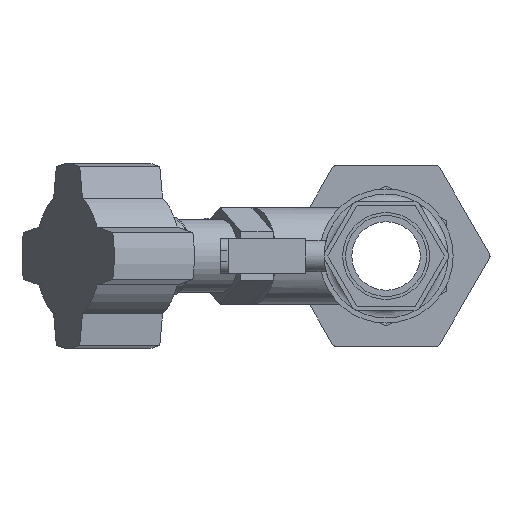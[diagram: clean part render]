
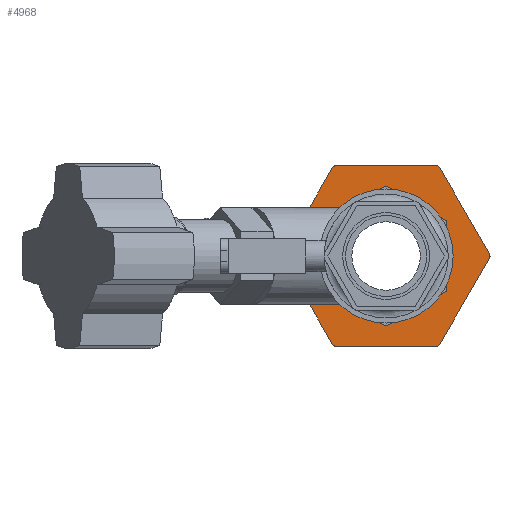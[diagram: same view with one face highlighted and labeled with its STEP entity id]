
A CAD part, left-side view. The second image highlights one B-rep face of the part: STEP entity #4968.
In plain terms, the highlighted planar face has unit normal (-1, 0, 0) as drawn and (1, 0, 0) by its records, which use the part's own axes.
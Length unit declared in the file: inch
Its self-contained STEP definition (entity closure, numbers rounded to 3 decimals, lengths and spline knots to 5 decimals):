
#97=FACE_BOUND('',#621,.T.);
#157=PLANE('',#5459);
#353=FACE_OUTER_BOUND('',#620,.T.);
#620=EDGE_LOOP('',(#3347,#3348,#3349,#3350,#3351,#3352,#3353,#3354,#3355,
#3356,#3357,#3358));
#621=EDGE_LOOP('',(#3359,#3360,#3361,#3362,#3363,#3364,#3365,#3366,#3367,
#3368,#3369,#3370));
#897=LINE('',#7437,#1335);
#902=LINE('',#7455,#1340);
#909=LINE('',#7473,#1347);
#914=LINE('',#7491,#1352);
#920=LINE('',#7506,#1358);
#921=LINE('',#7509,#1359);
#946=LINE('',#7588,#1384);
#949=LINE('',#7596,#1387);
#952=LINE('',#7604,#1390);
#955=LINE('',#7612,#1393);
#958=LINE('',#7620,#1396);
#961=LINE('',#7627,#1399);
#1335=VECTOR('',#5940,0.3937);
#1340=VECTOR('',#5959,0.3937);
#1347=VECTOR('',#5976,0.3937);
#1352=VECTOR('',#5995,0.3937);
#1358=VECTOR('',#6009,0.3937);
#1359=VECTOR('',#6012,0.3937);
#1384=VECTOR('',#6089,0.3937);
#1387=VECTOR('',#6098,0.3937);
#1390=VECTOR('',#6107,0.3937);
#1393=VECTOR('',#6116,0.3937);
#1396=VECTOR('',#6125,0.3937);
#1399=VECTOR('',#6134,0.3937);
#1766=CIRCLE('',#5387,0.025);
#1770=CIRCLE('',#5395,0.025);
#1774=CIRCLE('',#5402,0.025);
#1776=CIRCLE('',#5407,0.025);
#1780=CIRCLE('',#5414,0.025);
#1782=CIRCLE('',#5419,0.025);
#1796=CIRCLE('',#5442,0.05);
#1797=CIRCLE('',#5445,0.05);
#1798=CIRCLE('',#5448,0.05);
#1799=CIRCLE('',#5451,0.05);
#1800=CIRCLE('',#5454,0.05);
#1801=CIRCLE('',#5457,0.05);
#2007=VERTEX_POINT('',#7412);
#2008=VERTEX_POINT('',#7413);
#2017=VERTEX_POINT('',#7436);
#2019=VERTEX_POINT('',#7442);
#2023=VERTEX_POINT('',#7454);
#2025=VERTEX_POINT('',#7460);
#2029=VERTEX_POINT('',#7472);
#2031=VERTEX_POINT('',#7478);
#2035=VERTEX_POINT('',#7490);
#2037=VERTEX_POINT('',#7496);
#2040=VERTEX_POINT('',#7504);
#2041=VERTEX_POINT('',#7508);
#2067=VERTEX_POINT('',#7581);
#2068=VERTEX_POINT('',#7583);
#2069=VERTEX_POINT('',#7587);
#2070=VERTEX_POINT('',#7591);
#2071=VERTEX_POINT('',#7595);
#2072=VERTEX_POINT('',#7599);
#2073=VERTEX_POINT('',#7603);
#2074=VERTEX_POINT('',#7607);
#2075=VERTEX_POINT('',#7611);
#2076=VERTEX_POINT('',#7615);
#2077=VERTEX_POINT('',#7619);
#2078=VERTEX_POINT('',#7623);
#2481=EDGE_CURVE('',#2007,#2008,#1766,.T.);
#2492=EDGE_CURVE('',#2008,#2017,#897,.T.);
#2495=EDGE_CURVE('',#2017,#2019,#1770,.T.);
#2501=EDGE_CURVE('',#2023,#2007,#902,.T.);
#2504=EDGE_CURVE('',#2025,#2023,#1774,.T.);
#2510=EDGE_CURVE('',#2019,#2029,#909,.T.);
#2513=EDGE_CURVE('',#2029,#2031,#1776,.T.);
#2519=EDGE_CURVE('',#2035,#2025,#914,.T.);
#2522=EDGE_CURVE('',#2037,#2035,#1780,.T.);
#2527=EDGE_CURVE('',#2031,#2040,#920,.T.);
#2528=EDGE_CURVE('',#2041,#2037,#921,.T.);
#2531=EDGE_CURVE('',#2040,#2041,#1782,.T.);
#2566=EDGE_CURVE('',#2068,#2067,#1796,.T.);
#2568=EDGE_CURVE('',#2069,#2068,#946,.T.);
#2570=EDGE_CURVE('',#2070,#2069,#1797,.T.);
#2572=EDGE_CURVE('',#2071,#2070,#949,.T.);
#2574=EDGE_CURVE('',#2072,#2071,#1798,.T.);
#2576=EDGE_CURVE('',#2073,#2072,#952,.T.);
#2578=EDGE_CURVE('',#2074,#2073,#1799,.T.);
#2580=EDGE_CURVE('',#2075,#2074,#955,.T.);
#2582=EDGE_CURVE('',#2076,#2075,#1800,.T.);
#2584=EDGE_CURVE('',#2077,#2076,#958,.T.);
#2586=EDGE_CURVE('',#2078,#2077,#1801,.T.);
#2588=EDGE_CURVE('',#2067,#2078,#961,.T.);
#3347=ORIENTED_EDGE('',*,*,#2588,.T.);
#3348=ORIENTED_EDGE('',*,*,#2586,.T.);
#3349=ORIENTED_EDGE('',*,*,#2584,.T.);
#3350=ORIENTED_EDGE('',*,*,#2582,.T.);
#3351=ORIENTED_EDGE('',*,*,#2580,.T.);
#3352=ORIENTED_EDGE('',*,*,#2578,.T.);
#3353=ORIENTED_EDGE('',*,*,#2576,.T.);
#3354=ORIENTED_EDGE('',*,*,#2574,.T.);
#3355=ORIENTED_EDGE('',*,*,#2572,.T.);
#3356=ORIENTED_EDGE('',*,*,#2570,.T.);
#3357=ORIENTED_EDGE('',*,*,#2568,.T.);
#3358=ORIENTED_EDGE('',*,*,#2566,.T.);
#3359=ORIENTED_EDGE('',*,*,#2528,.T.);
#3360=ORIENTED_EDGE('',*,*,#2522,.T.);
#3361=ORIENTED_EDGE('',*,*,#2519,.T.);
#3362=ORIENTED_EDGE('',*,*,#2504,.T.);
#3363=ORIENTED_EDGE('',*,*,#2501,.T.);
#3364=ORIENTED_EDGE('',*,*,#2481,.T.);
#3365=ORIENTED_EDGE('',*,*,#2492,.T.);
#3366=ORIENTED_EDGE('',*,*,#2495,.T.);
#3367=ORIENTED_EDGE('',*,*,#2510,.T.);
#3368=ORIENTED_EDGE('',*,*,#2513,.T.);
#3369=ORIENTED_EDGE('',*,*,#2527,.T.);
#3370=ORIENTED_EDGE('',*,*,#2531,.T.);
#4968=ADVANCED_FACE('',(#353,#97),#157,.T.);
#5387=AXIS2_PLACEMENT_3D('',#7414,#5919,#5920);
#5395=AXIS2_PLACEMENT_3D('',#7443,#5945,#5946);
#5402=AXIS2_PLACEMENT_3D('',#7461,#5964,#5965);
#5407=AXIS2_PLACEMENT_3D('',#7479,#5981,#5982);
#5414=AXIS2_PLACEMENT_3D('',#7497,#6000,#6001);
#5419=AXIS2_PLACEMENT_3D('',#7514,#6017,#6018);
#5442=AXIS2_PLACEMENT_3D('',#7584,#6084,#6085);
#5445=AXIS2_PLACEMENT_3D('',#7592,#6093,#6094);
#5448=AXIS2_PLACEMENT_3D('',#7600,#6102,#6103);
#5451=AXIS2_PLACEMENT_3D('',#7608,#6111,#6112);
#5454=AXIS2_PLACEMENT_3D('',#7616,#6120,#6121);
#5457=AXIS2_PLACEMENT_3D('',#7624,#6129,#6130);
#5459=AXIS2_PLACEMENT_3D('',#7628,#6135,#6136);
#5919=DIRECTION('center_axis',(-1.,0.,0.));
#5920=DIRECTION('ref_axis',(0.,-0.5,0.866));
#5940=DIRECTION('',(0.,-0.866,-0.5));
#5945=DIRECTION('center_axis',(-1.,0.,0.));
#5946=DIRECTION('ref_axis',(0.,0.5,0.866));
#5959=DIRECTION('',(0.,0.,-1.));
#5964=DIRECTION('center_axis',(-1.,0.,0.));
#5965=DIRECTION('ref_axis',(0.,-1.,0.));
#5976=DIRECTION('',(0.,-0.866,0.5));
#5981=DIRECTION('center_axis',(-1.,0.,0.));
#5982=DIRECTION('ref_axis',(0.,1.,0.));
#5995=DIRECTION('',(0.,0.866,-0.5));
#6000=DIRECTION('center_axis',(-1.,0.,0.));
#6001=DIRECTION('ref_axis',(0.,-0.5,-0.866));
#6009=DIRECTION('',(0.,0.,1.));
#6012=DIRECTION('',(0.,0.866,0.5));
#6017=DIRECTION('center_axis',(-1.,0.,0.));
#6018=DIRECTION('ref_axis',(0.,0.5,-0.866));
#6084=DIRECTION('center_axis',(1.,0.,0.));
#6085=DIRECTION('ref_axis',(0.,0.,1.));
#6089=DIRECTION('',(0.,1.,0.));
#6093=DIRECTION('center_axis',(1.,0.,0.));
#6094=DIRECTION('ref_axis',(0.,0.866,0.5));
#6098=DIRECTION('',(0.,0.5,-0.866));
#6102=DIRECTION('center_axis',(1.,0.,0.));
#6103=DIRECTION('ref_axis',(0.,0.866,-0.5));
#6107=DIRECTION('',(0.,-0.5,-0.866));
#6111=DIRECTION('center_axis',(1.,0.,0.));
#6112=DIRECTION('ref_axis',(0.,0.,-1.));
#6116=DIRECTION('',(0.,-1.,0.));
#6120=DIRECTION('center_axis',(1.,0.,0.));
#6121=DIRECTION('ref_axis',(0.,-0.866,-0.5));
#6125=DIRECTION('',(0.,-0.5,0.866));
#6129=DIRECTION('center_axis',(1.,0.,0.));
#6130=DIRECTION('ref_axis',(0.,-0.866,0.5));
#6134=DIRECTION('',(0.,0.5,0.866));
#6135=DIRECTION('center_axis',(1.,0.,0.));
#6136=DIRECTION('ref_axis',(0.,0.,-1.));
#7412=CARTESIAN_POINT('',(0.315,0.6575,-0.36517));
#7413=CARTESIAN_POINT('',(0.315,0.645,-0.38682));
#7414=CARTESIAN_POINT('Origin',(0.315,0.6325,-0.36517));
#7436=CARTESIAN_POINT('',(0.315,0.0125,-0.752));
#7437=CARTESIAN_POINT('',(0.315,0.48688,-0.47812));
#7442=CARTESIAN_POINT('',(0.315,-0.0125,-0.752));
#7443=CARTESIAN_POINT('Origin',(0.315,0.,-0.73035));
#7454=CARTESIAN_POINT('',(0.315,0.6575,0.36517));
#7455=CARTESIAN_POINT('',(0.315,0.6575,0.18259));
#7460=CARTESIAN_POINT('',(0.315,0.645,0.38682));
#7461=CARTESIAN_POINT('Origin',(0.315,0.6325,0.36517));
#7472=CARTESIAN_POINT('',(0.315,-0.645,-0.38682));
#7473=CARTESIAN_POINT('',(0.315,-0.17063,-0.66071));
#7478=CARTESIAN_POINT('',(0.315,-0.6575,-0.36517));
#7479=CARTESIAN_POINT('Origin',(0.315,-0.6325,-0.36517));
#7490=CARTESIAN_POINT('',(0.315,0.0125,0.752));
#7491=CARTESIAN_POINT('',(0.315,0.17063,0.66071));
#7496=CARTESIAN_POINT('',(0.315,-0.0125,0.752));
#7497=CARTESIAN_POINT('Origin',(0.315,0.,0.73035));
#7504=CARTESIAN_POINT('',(0.315,-0.6575,0.36517));
#7506=CARTESIAN_POINT('',(0.315,-0.6575,-0.18259));
#7508=CARTESIAN_POINT('',(0.315,-0.645,0.38682));
#7509=CARTESIAN_POINT('',(0.315,-0.48687,0.47812));
#7514=CARTESIAN_POINT('Origin',(0.315,-0.6325,0.36517));
#7581=CARTESIAN_POINT('',(0.315,0.58024,-0.955));
#7583=CARTESIAN_POINT('',(0.315,0.53694,-0.98));
#7584=CARTESIAN_POINT('Origin',(0.315,0.53694,-0.93));
#7587=CARTESIAN_POINT('',(0.315,-0.53694,-0.98));
#7588=CARTESIAN_POINT('',(0.315,0.53694,-0.98));
#7591=CARTESIAN_POINT('',(0.315,-0.58024,-0.955));
#7592=CARTESIAN_POINT('Origin',(0.315,-0.53694,-0.93));
#7595=CARTESIAN_POINT('',(0.315,-1.11717,-0.025));
#7596=CARTESIAN_POINT('',(0.315,-0.58024,-0.955));
#7599=CARTESIAN_POINT('',(0.315,-1.11717,0.025));
#7600=CARTESIAN_POINT('Origin',(0.315,-1.07387,0.));
#7603=CARTESIAN_POINT('',(0.315,-0.58024,0.955));
#7604=CARTESIAN_POINT('',(0.315,-1.11717,0.025));
#7607=CARTESIAN_POINT('',(0.315,-0.53694,0.98));
#7608=CARTESIAN_POINT('Origin',(0.315,-0.53694,0.93));
#7611=CARTESIAN_POINT('',(0.315,0.53694,0.98));
#7612=CARTESIAN_POINT('',(0.315,-0.53694,0.98));
#7615=CARTESIAN_POINT('',(0.315,0.58024,0.955));
#7616=CARTESIAN_POINT('Origin',(0.315,0.53694,0.93));
#7619=CARTESIAN_POINT('',(0.315,1.11717,0.025));
#7620=CARTESIAN_POINT('',(0.315,0.58024,0.955));
#7623=CARTESIAN_POINT('',(0.315,1.11717,-0.025));
#7624=CARTESIAN_POINT('Origin',(0.315,1.07387,0.));
#7627=CARTESIAN_POINT('',(0.315,1.11717,-0.025));
#7628=CARTESIAN_POINT('Origin',(0.315,0.,0.));
